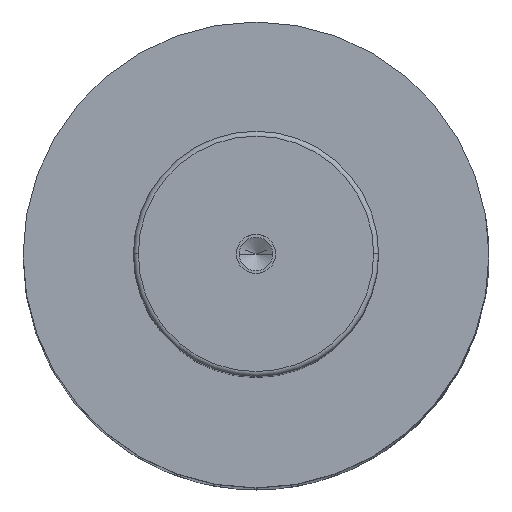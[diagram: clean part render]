
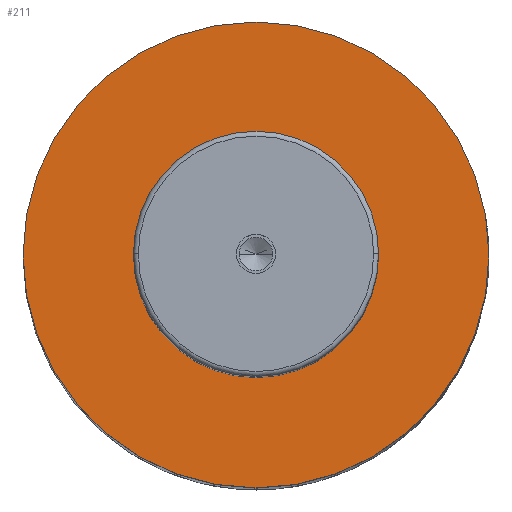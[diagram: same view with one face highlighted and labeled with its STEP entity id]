
A CAD part, top view. The second image highlights one B-rep face of the part: STEP entity #211.
In plain terms, the highlighted planar face has unit normal (0, 0, 1).
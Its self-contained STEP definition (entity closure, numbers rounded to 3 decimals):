
#109=PLANE('',#1266);
#138=FACE_BOUND('',#359,.T.);
#139=FACE_BOUND('',#360,.T.);
#211=ADVANCED_FACE('',(#138,#139),#109,.T.);
#359=EDGE_LOOP('',(#571,#572));
#360=EDGE_LOOP('',(#573,#574));
#451=CIRCLE('',#1260,25.);
#452=CIRCLE('',#1262,25.);
#453=CIRCLE('',#1264,47.5);
#454=CIRCLE('',#1265,47.5);
#571=ORIENTED_EDGE('',*,*,#970,.F.);
#572=ORIENTED_EDGE('',*,*,#971,.F.);
#573=ORIENTED_EDGE('',*,*,#969,.T.);
#574=ORIENTED_EDGE('',*,*,#967,.T.);
#856=VERTEX_POINT('',#1837);
#857=VERTEX_POINT('',#1839);
#858=VERTEX_POINT('',#1845);
#859=VERTEX_POINT('',#1846);
#967=EDGE_CURVE('',#857,#856,#451,.T.);
#969=EDGE_CURVE('',#856,#857,#452,.T.);
#970=EDGE_CURVE('',#858,#859,#453,.T.);
#971=EDGE_CURVE('',#859,#858,#454,.T.);
#1260=AXIS2_PLACEMENT_3D('',#1838,#1456,#1457);
#1262=AXIS2_PLACEMENT_3D('',#1842,#1461,#1462);
#1264=AXIS2_PLACEMENT_3D('',#1844,#1465,#1466);
#1265=AXIS2_PLACEMENT_3D('',#1847,#1467,#1468);
#1266=AXIS2_PLACEMENT_3D('',#1848,#1469,#1470);
#1456=DIRECTION('',(0.,0.,-1.));
#1457=DIRECTION('',(0.,1.,0.));
#1461=DIRECTION('',(0.,0.,-1.));
#1462=DIRECTION('',(0.,-1.,0.));
#1465=DIRECTION('',(0.,0.,-1.));
#1466=DIRECTION('',(0.,1.,0.));
#1467=DIRECTION('',(0.,0.,-1.));
#1468=DIRECTION('',(0.,-1.,0.));
#1469=DIRECTION('',(0.,0.,1.));
#1470=DIRECTION('',(0.,-1.,0.));
#1837=CARTESIAN_POINT('',(-25.,0.,242.));
#1838=CARTESIAN_POINT('',(0.,0.,242.));
#1839=CARTESIAN_POINT('',(25.,0.,242.));
#1842=CARTESIAN_POINT('',(0.,0.,242.));
#1844=CARTESIAN_POINT('',(0.,0.,242.));
#1845=CARTESIAN_POINT('',(47.5,0.,242.));
#1846=CARTESIAN_POINT('',(-47.5,0.,242.));
#1847=CARTESIAN_POINT('',(0.,0.,242.));
#1848=CARTESIAN_POINT('',(0.,0.,242.));
